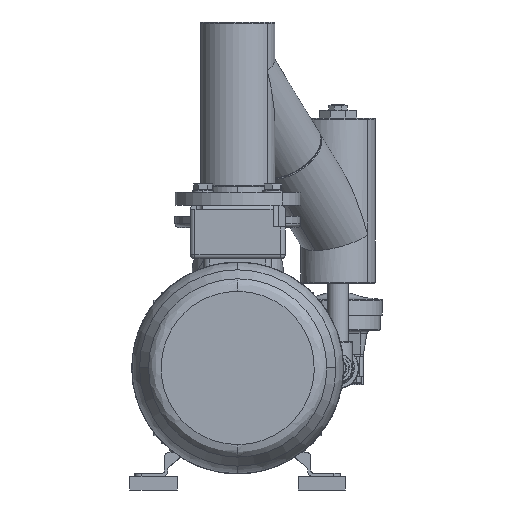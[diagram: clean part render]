
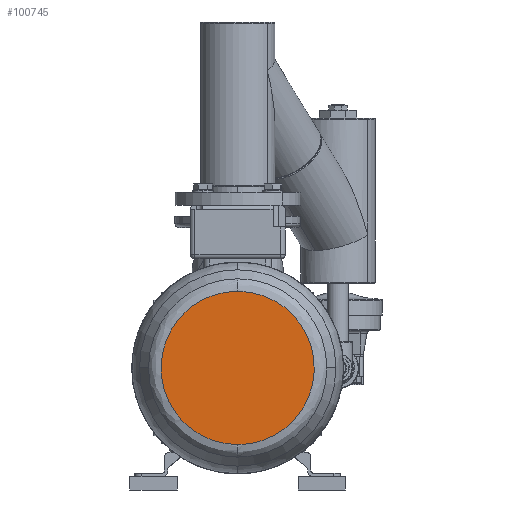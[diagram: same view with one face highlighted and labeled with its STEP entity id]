
A CAD part, front view. The second image highlights one B-rep face of the part: STEP entity #100745.
In plain terms, the highlighted planar face has unit normal (0, -1, 0).
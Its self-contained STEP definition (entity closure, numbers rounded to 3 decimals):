
#30989 = ORIENTED_EDGE ( 'NONE', *, *, #105546, .F. ) ;
#32838 = ORIENTED_EDGE ( 'NONE', *, *, #102001, .F. ) ;
#100361 = EDGE_LOOP ( 'NONE', ( #30989, #32838 ) ) ;
#100745 = ADVANCED_FACE ( 'NONE', ( #111998 ), #111982, .T. ) ;
#102001 = EDGE_CURVE ( 'NONE', #105497, #104453, #113262, .T. ) ;
#104453 = VERTEX_POINT ( 'NONE', #120674 ) ;
#105497 = VERTEX_POINT ( 'NONE', #120807 ) ;
#105546 = EDGE_CURVE ( 'NONE', #104453, #105497, #120911, .T. ) ;
#111980 = AXIS2_PLACEMENT_3D ( 'NONE', #111993, #111992, #111991 ) ;
#111982 = PLANE ( 'NONE',  #111980 ) ;
#111991 = DIRECTION ( 'NONE',  ( 1., 0., 0. ) ) ;
#111992 = DIRECTION ( 'NONE',  ( 0., -1., 0. ) ) ;
#111993 = CARTESIAN_POINT ( 'NONE',  ( -154.478, -908.523, 25. ) ) ;
#111998 = FACE_OUTER_BOUND ( 'NONE', #100361, .T. ) ;
#113255 = CARTESIAN_POINT ( 'NONE',  ( -154.478, -908.523, -87.932 ) ) ;
#113256 = CARTESIAN_POINT ( 'NONE',  ( 71.387, -908.523, -87.932 ) ) ;
#113257 = CARTESIAN_POINT ( 'NONE',  ( 71.387, -908.523, 137.932 ) ) ;
#113258 = CARTESIAN_POINT ( 'NONE',  ( -154.478, -908.523, 137.932 ) ) ;
#113262 =( BOUNDED_CURVE ( )  B_SPLINE_CURVE ( 3, ( #113258, #113257, #113256, #113255 ),
 .UNSPECIFIED., .F., .T. ) 
 B_SPLINE_CURVE_WITH_KNOTS ( ( 4, 4 ),
 ( 0., 1. ),
 .UNSPECIFIED. ) 
 CURVE ( )  GEOMETRIC_REPRESENTATION_ITEM ( )  RATIONAL_B_SPLINE_CURVE ( ( 1., 0.333, 0.333, 1. ) ) 
 REPRESENTATION_ITEM ( '' )  );
#120674 = CARTESIAN_POINT ( 'NONE',  ( -154.478, -908.523, -87.932 ) ) ;
#120807 = CARTESIAN_POINT ( 'NONE',  ( -154.478, -908.523, 137.932 ) ) ;
#120892 = CARTESIAN_POINT ( 'NONE',  ( -154.478, -908.523, 137.932 ) ) ;
#120894 = CARTESIAN_POINT ( 'NONE',  ( -380.343, -908.523, 137.932 ) ) ;
#120896 = CARTESIAN_POINT ( 'NONE',  ( -380.343, -908.523, -87.932 ) ) ;
#120899 = CARTESIAN_POINT ( 'NONE',  ( -154.478, -908.523, -87.932 ) ) ;
#120911 =( BOUNDED_CURVE ( )  B_SPLINE_CURVE ( 3, ( #120899, #120896, #120894, #120892 ),
 .UNSPECIFIED., .F., .F. ) 
 B_SPLINE_CURVE_WITH_KNOTS ( ( 4, 4 ),
 ( 0., 1. ),
 .UNSPECIFIED. ) 
 CURVE ( )  GEOMETRIC_REPRESENTATION_ITEM ( )  RATIONAL_B_SPLINE_CURVE ( ( 1., 0.333, 0.333, 1. ) ) 
 REPRESENTATION_ITEM ( '' )  );
